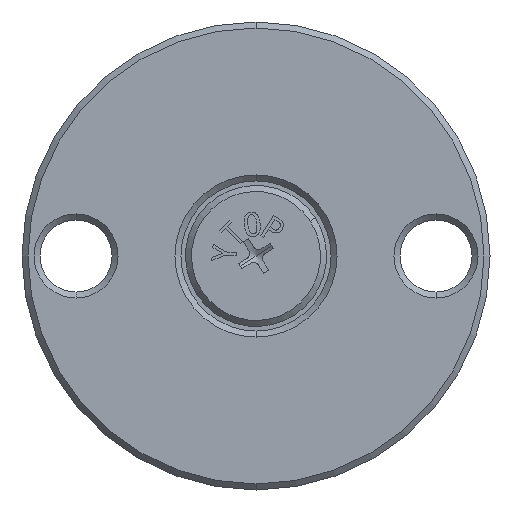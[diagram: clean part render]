
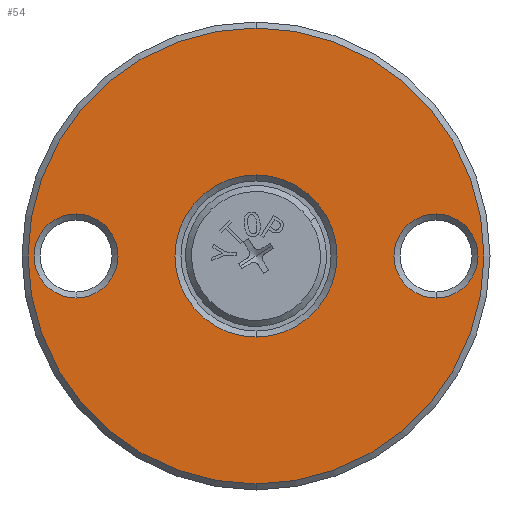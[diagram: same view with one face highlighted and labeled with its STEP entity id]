
A CAD part, front view. The second image highlights one B-rep face of the part: STEP entity #54.
In plain terms, the highlighted planar face has unit normal (0, -1, 0).
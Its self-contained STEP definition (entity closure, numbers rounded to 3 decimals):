
#43 = VERTEX_POINT ( 'NONE', #2562 ) ;
#54 = ADVANCED_FACE ( 'NONE', ( #2826, #4945, #8183, #324 ), #8549, .F. ) ;
#324 = FACE_BOUND ( 'NONE', #7536, .T. ) ;
#336 = VERTEX_POINT ( 'NONE', #6330 ) ;
#381 = CIRCLE ( 'NONE', #7929, 13.5 ) ;
#438 = EDGE_CURVE ( 'NONE', #1020, #7275, #7144, .T. ) ;
#473 = ORIENTED_EDGE ( 'NONE', *, *, #6045, .T. ) ;
#491 = CARTESIAN_POINT ( 'NONE',  ( 30., 0., 0. ) ) ;
#522 = DIRECTION ( 'NONE',  ( 0., 0., 1. ) ) ;
#540 = CARTESIAN_POINT ( 'NONE',  ( 39., 0., 0. ) ) ;
#548 = AXIS2_PLACEMENT_3D ( 'NONE', #540, #5793, #3214 ) ;
#632 = VERTEX_POINT ( 'NONE', #6107 ) ;
#636 = DIRECTION ( 'NONE',  ( 0., 1., 0. ) ) ;
#683 = CIRCLE ( 'NONE', #1004, 7. ) ;
#1004 = AXIS2_PLACEMENT_3D ( 'NONE', #5717, #3032, #7682 ) ;
#1006 = DIRECTION ( 'NONE',  ( 0., 0., 1. ) ) ;
#1020 = VERTEX_POINT ( 'NONE', #2647 ) ;
#1170 = EDGE_LOOP ( 'NONE', ( #6883, #6007 ) ) ;
#1203 = DIRECTION ( 'NONE',  ( 0., -1., 0. ) ) ;
#1717 = AXIS2_PLACEMENT_3D ( 'NONE', #2365, #3705, #4396 ) ;
#1954 = CIRCLE ( 'NONE', #2198, 7. ) ;
#2198 = AXIS2_PLACEMENT_3D ( 'NONE', #3825, #3912, #7935 ) ;
#2365 = CARTESIAN_POINT ( 'NONE',  ( 0., 0., 0. ) ) ;
#2562 = CARTESIAN_POINT ( 'NONE',  ( 0., 0., -13.5 ) ) ;
#2647 = CARTESIAN_POINT ( 'NONE',  ( 0., 0., 38. ) ) ;
#2826 = FACE_BOUND ( 'NONE', #6794, .T. ) ;
#3032 = DIRECTION ( 'NONE',  ( 0., 1., 0. ) ) ;
#3042 = DIRECTION ( 'NONE',  ( 0., 0., 1. ) ) ;
#3170 = CARTESIAN_POINT ( 'NONE',  ( 30., 0., -7. ) ) ;
#3189 = DIRECTION ( 'NONE',  ( 0., 0., 1. ) ) ;
#3214 = DIRECTION ( 'NONE',  ( 0., 0., 1. ) ) ;
#3303 = DIRECTION ( 'NONE',  ( 0., 0., 1. ) ) ;
#3508 = EDGE_CURVE ( 'NONE', #43, #6502, #6599, .T. ) ;
#3686 = CARTESIAN_POINT ( 'NONE',  ( 0., 0., 13.5 ) ) ;
#3705 = DIRECTION ( 'NONE',  ( 0., -1., 0. ) ) ;
#3802 = CARTESIAN_POINT ( 'NONE',  ( 0., 0., -38. ) ) ;
#3825 = CARTESIAN_POINT ( 'NONE',  ( 30., 0., 0. ) ) ;
#3912 = DIRECTION ( 'NONE',  ( 0., 1., 0. ) ) ;
#4180 = EDGE_CURVE ( 'NONE', #7275, #1020, #4697, .T. ) ;
#4217 = ORIENTED_EDGE ( 'NONE', *, *, #6099, .T. ) ;
#4396 = DIRECTION ( 'NONE',  ( 0., 0., 1. ) ) ;
#4697 = CIRCLE ( 'NONE', #8306, 38. ) ;
#4941 = VERTEX_POINT ( 'NONE', #3170 ) ;
#4945 = FACE_BOUND ( 'NONE', #1170, .T. ) ;
#5048 = DIRECTION ( 'NONE',  ( 0., 1., 0. ) ) ;
#5065 = ORIENTED_EDGE ( 'NONE', *, *, #3508, .T. ) ;
#5169 = EDGE_LOOP ( 'NONE', ( #8529, #5568 ) ) ;
#5396 = CARTESIAN_POINT ( 'NONE',  ( 0., 0., 0. ) ) ;
#5568 = ORIENTED_EDGE ( 'NONE', *, *, #4180, .T. ) ;
#5676 = AXIS2_PLACEMENT_3D ( 'NONE', #6453, #7813, #3042 ) ;
#5717 = CARTESIAN_POINT ( 'NONE',  ( -30., 0., 0. ) ) ;
#5793 = DIRECTION ( 'NONE',  ( 0., 1., 0. ) ) ;
#5929 = CARTESIAN_POINT ( 'NONE',  ( 0., 0., 0. ) ) ;
#5964 = DIRECTION ( 'NONE',  ( 0., 1., 0. ) ) ;
#6007 = ORIENTED_EDGE ( 'NONE', *, *, #6586, .T. ) ;
#6045 = EDGE_CURVE ( 'NONE', #632, #4941, #7846, .T. ) ;
#6099 = EDGE_CURVE ( 'NONE', #4941, #632, #1954, .T. ) ;
#6107 = CARTESIAN_POINT ( 'NONE',  ( 30., 0., 7. ) ) ;
#6259 = EDGE_CURVE ( 'NONE', #6502, #43, #381, .T. ) ;
#6330 = CARTESIAN_POINT ( 'NONE',  ( -30., 0., -7. ) ) ;
#6453 = CARTESIAN_POINT ( 'NONE',  ( -30., 0., 0. ) ) ;
#6502 = VERTEX_POINT ( 'NONE', #3686 ) ;
#6586 = EDGE_CURVE ( 'NONE', #6919, #336, #7934, .T. ) ;
#6599 = CIRCLE ( 'NONE', #6679, 13.5 ) ;
#6679 = AXIS2_PLACEMENT_3D ( 'NONE', #7023, #5048, #1006 ) ;
#6794 = EDGE_LOOP ( 'NONE', ( #4217, #473 ) ) ;
#6883 = ORIENTED_EDGE ( 'NONE', *, *, #8390, .T. ) ;
#6919 = VERTEX_POINT ( 'NONE', #7484 ) ;
#7023 = CARTESIAN_POINT ( 'NONE',  ( 0., 0., 0. ) ) ;
#7144 = CIRCLE ( 'NONE', #1717, 38. ) ;
#7275 = VERTEX_POINT ( 'NONE', #3802 ) ;
#7484 = CARTESIAN_POINT ( 'NONE',  ( -30., 0., 7. ) ) ;
#7536 = EDGE_LOOP ( 'NONE', ( #5065, #8060 ) ) ;
#7682 = DIRECTION ( 'NONE',  ( 0., 0., 1. ) ) ;
#7813 = DIRECTION ( 'NONE',  ( 0., 1., 0. ) ) ;
#7846 = CIRCLE ( 'NONE', #8204, 7. ) ;
#7929 = AXIS2_PLACEMENT_3D ( 'NONE', #5396, #636, #3303 ) ;
#7934 = CIRCLE ( 'NONE', #5676, 7. ) ;
#7935 = DIRECTION ( 'NONE',  ( 0., 0., 1. ) ) ;
#8060 = ORIENTED_EDGE ( 'NONE', *, *, #6259, .T. ) ;
#8183 = FACE_OUTER_BOUND ( 'NONE', #5169, .T. ) ;
#8204 = AXIS2_PLACEMENT_3D ( 'NONE', #491, #5964, #522 ) ;
#8306 = AXIS2_PLACEMENT_3D ( 'NONE', #5929, #1203, #3189 ) ;
#8390 = EDGE_CURVE ( 'NONE', #336, #6919, #683, .T. ) ;
#8529 = ORIENTED_EDGE ( 'NONE', *, *, #438, .T. ) ;
#8549 = PLANE ( 'NONE',  #548 ) ;
